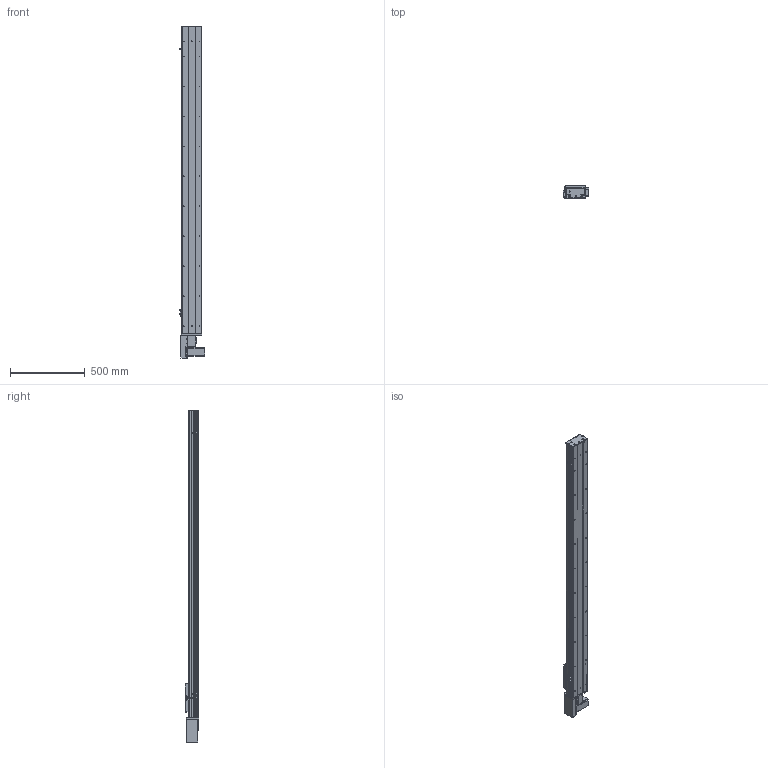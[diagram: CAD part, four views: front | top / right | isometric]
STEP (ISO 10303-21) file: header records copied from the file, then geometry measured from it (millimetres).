
FILE_DESCRIPTION (( 'STEP AP203' ), '1' );
FILE_NAME ('Y135CB-D90-S1750-BR-P400W.STEP', '2020-02-18T02:49:39', ( '微软用户' ), ( '微软中国' ), 'SwSTEP 2.0', 'SolidWorks 2017', '' );
FILE_SCHEMA (( 'CONFIG_CONTROL_DESIGN' ));
Length unit declared in the file: millimetre
Products named in the file (18): Y135C-陔俋离換覜結え-; 0B-埴倛裔啣; 5C--俋欶; 0B-源倛裔啣; C-雄赽釱--; 0B-萇儂楊擘啣; Y10B--々湍喘謫眊--666; san松下电机400不带刹车----; Y135CB-耜裔; Y135CB-D90-S1750-BR-P400W; 5CB --掛极耜裔啣-; 135CB---遴掛极.-; C-詩湍揤踡え-陔; 35CB---喘謫眊楊擘啣; 135CB--詩湍-CE; Y10B-耜蚾蟀諉啣----; Y100-135俋离換覜ん--; Y俋欶BR----
Assembly tree (21 placements, depth 2):
  Y135CB-D90-S1750-BR-P400W
    Y135CB-耜裔
    135CB---遴掛极.-
    35CB---喘謫眊楊擘啣
    Y10B-耜蚾蟀諉啣----
    Y俋欶BR----
    0B-埴倛裔啣
    0B-源倛裔啣
    0B-萇儂楊擘啣
    san松下电机400不带刹车----
    5CB --掛极耜裔啣-  x2
    C-詩湍揤踡え-陔  x2
    135CB--詩湍-CE
    Y100-135俋离換覜ん--  x3
    Y135C-陔俋离換覜結え-
    5C--俋欶
    C-雄赽釱--
    Y10B--々湍喘謫眊--666
Bounding box: 167.5 x 91 x 2214.5 mm (x, y, z)
Volume: 6334928.8 mm3; surface area: 2499243.1 mm2
Topology: 21 solids, 21 shells, 961 faces, 2599 edges, 1722 vertices
Faces by surface type: cylinder 487, plane 458, cone 16
Entity records: 30149 total; most frequent: DIRECTION 5007, CARTESIAN_POINT 4988, ORIENTED_EDGE 4674, EDGE_CURVE 2337, AXIS2_PLACEMENT_3D 1829, VERTEX_POINT 1550, LINE 1349, VECTOR 1349
